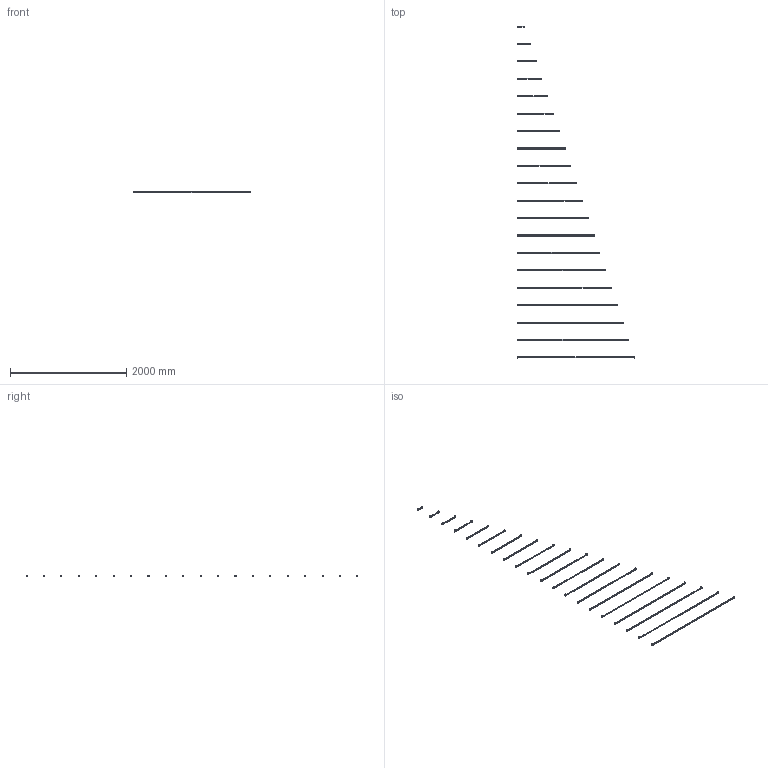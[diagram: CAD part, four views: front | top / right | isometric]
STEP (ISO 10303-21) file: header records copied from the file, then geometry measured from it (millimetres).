
FILE_DESCRIPTION(/* description */ (''),/* implementation_level */ '2;1');
FILE_NAME(/* name */ 'C:/Users/elena/OneDrive/Allegati di posta elettronica/Desktop/Piko mono 01A v2.step',/* time_stamp */ '2020-05-15T13:18:10+02:00',/* author */ (''),/* organization */ (''),/* preprocessor_version */ 'ST-DEVELOPER v18.1',/* originating_system */ 'Autodesk Translation Framework v9.3.0.1241',/* authorisation */ '');
FILE_SCHEMA (('AUTOMOTIVE_DESIGN { 1 0 10303 214 3 1 1 }'));
Products named in the file (2): Piko mono 01A; 01A
Assembly tree (1 placements, depth 2):
  Piko mono 01A
    01A
Bounding box: 2022 x 5719.8 x 30.98 mm (x, y, z)
Volume: 5216070.8 mm3; surface area: 2568732.7 mm2
Topology: 120 solids, 120 shells, 3309 faces, 8346 edges, 5477 vertices
Faces by surface type: cylinder 1880, plane 1189, bspline 200, cone 40
Full cylindrical faces by diameter (mm): 2.5 x80, 3 x40, 7 x80, 19.8 x40
Entity records: 128536 total; most frequent: CARTESIAN_POINT 45615, DIRECTION 18130, ORIENTED_EDGE 16692, EDGE_CURVE 8346, AXIS2_PLACEMENT_3D 6992, VERTEX_POINT 5477, LINE 4146, VECTOR 4146
